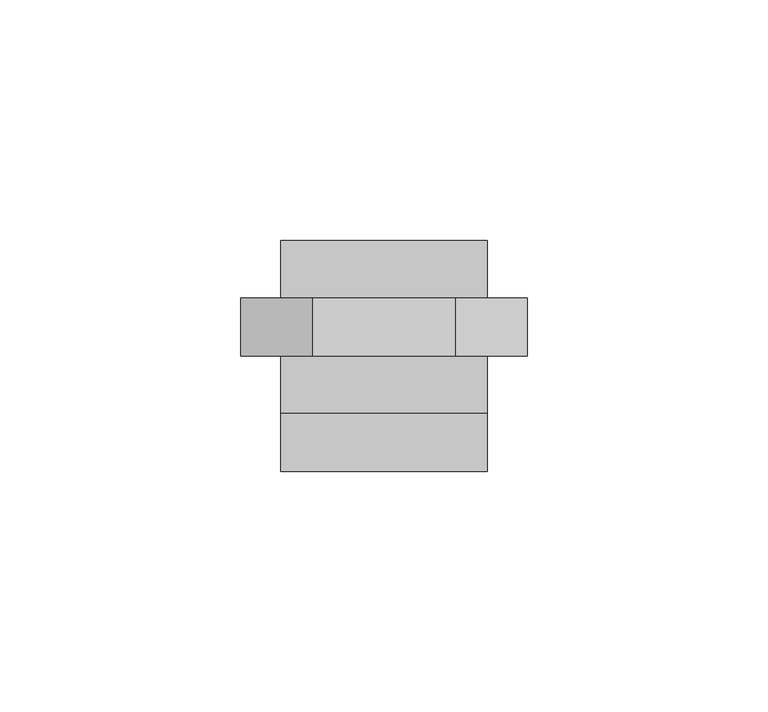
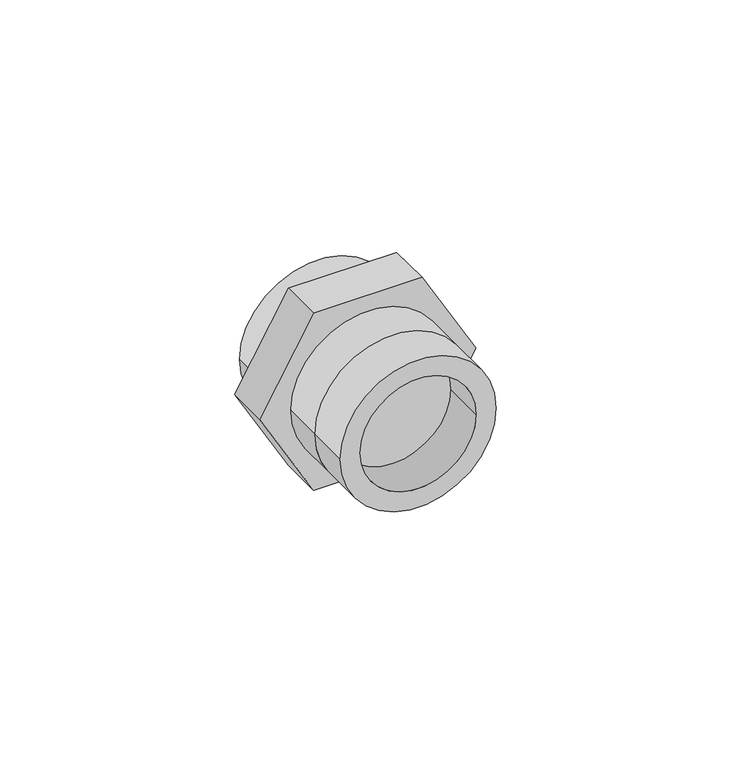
"""IFC4 building model written with IfcOpenShell, lengths in millimetres: pipe fitting geometry, EGB_VASEN_ PPR_Enlace desmontable soldar soldar WXR109 : Enlace desmontable soldar-soldar WXR109."""

import ifcopenshell
import ifcopenshell.guid

model = None  # the IFC model being written
_history = None  # IfcOwnerHistory: only IFC2X3 demands one
_inside = {}  # id of a spatial element -> (the spatial element, [elements in it])
_under = {}  # id of a project, library or spatial element -> (it, [spatial elements below it])
_declared = {}  # id of a project -> (the project, [libraries it declares])
_typed = {}  # id of a type object -> (the type object, [elements of that type])
_made_of = {}  # id of a material, layer set ... -> (it, [elements and type objects made of it])


def new_model(schema):
    """Start an empty IFC model of exactly this schema.

    Asked for "IFC4X3", IfcOpenShell would pick the latest addendum, in which some entities
    have other attributes; the version numbers below select the first issue.
    IFC2X3 requires an IfcOwnerHistory on every rooted entity: one is made here for all.
    """
    global model, _history
    if schema == "IFC4X3":
        model = ifcopenshell.file(schema_version=(4, 3, 0, 0))
    else:
        model = ifcopenshell.file(schema=schema)
    _inside.clear()
    _under.clear()
    _declared.clear()
    _typed.clear()
    _made_of.clear()
    _history = None
    if model.schema == "IFC2X3":
        org = make("IfcOrganization", Name="unknown")
        user = make(
            "IfcPersonAndOrganization",
            ThePerson=make("IfcPerson", FamilyName="unknown"),
            TheOrganization=org,
        )
        app = make(
            "IfcApplication",
            ApplicationDeveloper=org,
            Version="unknown",
            ApplicationFullName="unknown",
            ApplicationIdentifier="unknown",
        )
        _history = make(
            "IfcOwnerHistory",
            OwningUser=user,
            OwningApplication=app,
            ChangeAction="ADDED",
            CreationDate=0,
        )
    return model


def make(cls, **values):
    """One entity of the class cls with the attributes given. An attribute that is None is left unset."""
    return model.create_entity(
        cls, **{name: value for name, value in values.items() if value is not None}
    )


def rooted(cls, **values):
    """An entity with a GlobalId (a new one), such as an element, a storey or a relation."""
    return make(cls, GlobalId=ifcopenshell.guid.new(), OwnerHistory=_history, **values)


def si_unit(unit_type, name, prefix=None):
    """IfcSIUnit, for example si_unit("LENGTHUNIT", "METRE", prefix="MILLI")."""
    return make("IfcSIUnit", UnitType=unit_type, Prefix=prefix, Name=name)


def assignment(units):
    """IfcUnitAssignment: the units of a project."""
    return None if units is None else make("IfcUnitAssignment", Units=units)


def point(xyz):
    """IfcCartesianPoint."""
    return None if xyz is None else make("IfcCartesianPoint", Coordinates=xyz)


def direction(xyz):
    """IfcDirection."""
    return None if xyz is None else make("IfcDirection", DirectionRatios=xyz)


def frame(location, z_axis=None, x_axis=None):
    """IfcAxis2Placement3D, a coordinate frame: its origin and axes. An axis left out is left unset."""
    return make(
        "IfcAxis2Placement3D",
        Location=point(location),
        Axis=direction(z_axis),
        RefDirection=direction(x_axis),
    )


def frame_2d(location, x_axis=None):
    """IfcAxis2Placement2D, a coordinate frame in the plane: its origin and x axis."""
    return make(
        "IfcAxis2Placement2D", Location=point(location), RefDirection=direction(x_axis)
    )


def origin():
    """The frame at (0, 0, 0) with its axes left unset."""
    return frame((0.0, 0.0, 0.0))


def origin_2d():
    """The frame at (0, 0) in the plane with its x axis left unset."""
    return frame_2d((0.0, 0.0))


def place(relative_to, where):
    """IfcLocalPlacement: puts the frame where relative to a parent placement (None: the world)."""
    return make(
        "IfcLocalPlacement", PlacementRelTo=relative_to, RelativePlacement=where
    )


def context(
    kind, dimensions, precision=None, world=None, true_north=None, identifier=None
):
    """IfcGeometricRepresentationContext, for example the 3D "Model" context."""
    return make(
        "IfcGeometricRepresentationContext",
        ContextIdentifier=identifier,
        ContextType=kind,
        CoordinateSpaceDimension=dimensions,
        Precision=precision,
        WorldCoordinateSystem=world,
        TrueNorth=true_north,
    )


def project(units=None, contexts=None):
    """IfcProject with its units and contexts."""
    return rooted(
        "IfcProject",
        Name="project",
        RepresentationContexts=contexts,
        UnitsInContext=assignment(units),
    )


def spatial(cls, under=None, at=None, **own):
    """A site, building, storey or space (cls), placed at a placement, below another one or the project."""
    s = rooted(cls, ObjectPlacement=at, **own)
    if under is not None:
        _under.setdefault(under.id(), (under, []))[1].append(s)
    return s


def polyline(points):
    """IfcPolyline through the points."""
    return make("IfcPolyline", Points=[point(p) for p in points])


def circle_curve(where, radius):
    """IfcCircle in the frame where."""
    return make("IfcCircle", Position=where, Radius=radius)


def trimmed(basis, trim1, trim2, sense, master):
    """IfcTrimmedCurve: the piece of a basis curve between two trims."""
    return make(
        "IfcTrimmedCurve",
        BasisCurve=basis,
        Trim1=trim1,
        Trim2=trim2,
        SenseAgreement=sense,
        MasterRepresentation=master,
    )


def segment(curve, same_sense, transition):
    """IfcCompositeCurveSegment."""
    return make(
        "IfcCompositeCurveSegment",
        Transition=transition,
        SameSense=same_sense,
        ParentCurve=curve,
    )


def composite_curve(segments, self_intersect=None):
    """IfcCompositeCurve: segments joined end to end."""
    return make("IfcCompositeCurve", Segments=segments, SelfIntersect=self_intersect)


def outline(outer, holes=None, kind="AREA"):
    """IfcArbitraryClosedProfileDef: a profile drawn as a closed curve; with holes, ...WithVoids."""
    if holes is None:
        return make("IfcArbitraryClosedProfileDef", ProfileType=kind, OuterCurve=outer)
    return make(
        "IfcArbitraryProfileDefWithVoids",
        ProfileType=kind,
        OuterCurve=outer,
        InnerCurves=holes,
    )


def extrude(swept, where, along, depth):
    """IfcExtrudedAreaSolid: the profile swept, set in the frame where, extruded along a direction by depth."""
    return make(
        "IfcExtrudedAreaSolid",
        SweptArea=swept,
        Position=where,
        ExtrudedDirection=direction(along),
        Depth=depth,
    )


def shape(context_of_items, identifier, shape_type, items):
    """IfcShapeRepresentation: the items that make up one representation, for example the "Body"."""
    return make(
        "IfcShapeRepresentation",
        ContextOfItems=context_of_items,
        RepresentationIdentifier=identifier,
        RepresentationType=shape_type,
        Items=items,
    )


def source(mapping_origin, context_of_items, identifier, shape_type, items):
    """IfcRepresentationMap: a shape defined once, which mapped items show again and again."""
    return make(
        "IfcRepresentationMap",
        MappingOrigin=mapping_origin,
        MappedRepresentation=shape(context_of_items, identifier, shape_type, items),
    )


def transform(
    local_origin,
    x_axis=None,
    y_axis=None,
    z_axis=None,
    scale=None,
    scale2=None,
    scale3=None,
    uniform=True,
):
    """IfcCartesianTransformationOperator3D, or its non-uniform kind. x_axis, y_axis, z_axis: its Axis1, 2, 3."""
    if uniform:
        return make(
            "IfcCartesianTransformationOperator3D",
            Axis1=direction(x_axis),
            Axis2=direction(y_axis),
            LocalOrigin=point(local_origin),
            Scale=scale,
            Axis3=direction(z_axis),
        )
    return make(
        "IfcCartesianTransformationOperator3DnonUniform",
        Axis1=direction(x_axis),
        Axis2=direction(y_axis),
        LocalOrigin=point(local_origin),
        Scale=scale,
        Axis3=direction(z_axis),
        Scale2=scale2,
        Scale3=scale3,
    )


def mapped(mapping_source, mapping_target):
    """IfcMappedItem: shows the shape of a source again, moved by a transform."""
    return make(
        "IfcMappedItem", MappingSource=mapping_source, MappingTarget=mapping_target
    )


def made_of(thing, what):
    """Note that an element or type object is made of a material, layer set ...; save() writes the relation."""
    if what is not None:
        _made_of.setdefault(what.id(), (what, []))[1].append(thing)
    return thing


def element(
    cls,
    number,
    at=None,
    inside=None,
    cuts=None,
    type_object=None,
    material=None,
    context=None,
    identifier="Body",
    shape_type=None,
    held_by="IfcProductDefinitionShape",
    body=None,
    shapes=None,
    **own,
):
    """One element of the class cls, such as IfcWall. Its Tag is "e" and its number.

    at: its placement. inside: the storey or other place that contains it. cuts: it is an
    opening in that element (IfcRelVoidsElement). A single representation is given by context,
    identifier, shape_type and body (its items); several are given by shapes. held_by: the class
    of the entity that holds the representations. save() writes the other relations.
    """
    e = rooted(cls, Tag="e%d" % number, ObjectPlacement=at, **own)
    if body is not None:
        shapes = [shape(context, identifier, shape_type, body)]
    if shapes is not None:
        e.Representation = make(held_by, Representations=shapes)
    if inside is not None:
        _inside.setdefault(inside.id(), (inside, []))[1].append(e)
    if cuts is not None:
        rooted(
            "IfcRelVoidsElement", RelatingBuildingElement=cuts, RelatedOpeningElement=e
        )
    if type_object is not None:
        _typed.setdefault(type_object.id(), (type_object, []))[1].append(e)
    return made_of(e, material)


def aggregate(whole, parts):
    """IfcRelAggregates: a whole, such as a stair, and the parts it consists of."""
    return rooted("IfcRelAggregates", RelatingObject=whole, RelatedObjects=parts)


def save(model, path):
    """Write the relations noted so far, then the file.

    IfcRelAggregates (storeys below a building ...), IfcRelContainedInSpatialStructure (elements
    in a storey), IfcRelDefinesByType, IfcRelAssociatesMaterial and IfcRelDeclares: one each for
    every whole, place, type object, material and project.
    """
    for whole, parts in _under.values():
        aggregate(whole, parts)
    for where, things in _inside.values():
        rooted(
            "IfcRelContainedInSpatialStructure",
            RelatedElements=things,
            RelatingStructure=where,
        )
    for kind, things in _typed.values():
        rooted("IfcRelDefinesByType", RelatedObjects=things, RelatingType=kind)
    for what, things in _made_of.values():
        rooted("IfcRelAssociatesMaterial", RelatedObjects=things, RelatingMaterial=what)
    for by, libraries in _declared.values():
        rooted("IfcRelDeclares", RelatingContext=by, RelatedDefinitions=libraries)
    model.write(path)


def pipe_fitting_d8ea8c3c(model_context):
    return source(origin(), model_context, "Body", "SweptSolid", [
        extrude(outline(polyline([(0.0, 29.7912739), (25.8, 14.8956369), (25.8, -14.8956369), (0.0, -29.7912739), (-25.8, -14.8956369), (-25.8, 14.8956369), (0.0, 29.7912739)])), frame((0.0, 0.14375, 0.0), z_axis=(0.0, 1.0, 0.0), x_axis=(0.0, 0.0, 1.0)), (0.0, 0.0, 1.0), 12.0),
        extrude(outline(composite_curve([segment(trimmed(circle_curve(origin_2d(), 21.5), [point((0.0, -21.5))], [point((0.0, 21.5))], False, "CARTESIAN"), True, "CONTINUOUS"), segment(trimmed(circle_curve(origin_2d(), 21.5), [point((0.0, 21.5))], [point((0.0, -21.5))], False, "CARTESIAN"), True, "CONTINUOUS")], self_intersect=False), holes=[composite_curve([segment(trimmed(circle_curve(origin_2d(), 16.0), [point((0.0, -16.0))], [point((0.0, 16.0))], True, "CARTESIAN"), True, "CONTINUOUS"), segment(trimmed(circle_curve(origin_2d(), 16.0), [point((0.0, 16.0))], [point((0.0, -16.0))], True, "CARTESIAN"), True, "CONTINUOUS")], self_intersect=False)]), frame((0.0, -23.85625, 0.0), z_axis=(0.0, 1.0, 0.0), x_axis=(0.0, 0.0, 1.0)), (0.0, 0.0, 1.0), 12.0),
        extrude(outline(composite_curve([segment(trimmed(circle_curve(origin_2d(), 21.5), [point((0.0, -21.5))], [point((0.0, 21.5))], False, "CARTESIAN"), True, "CONTINUOUS"), segment(trimmed(circle_curve(origin_2d(), 21.5), [point((0.0, 21.5))], [point((0.0, -21.5))], False, "CARTESIAN"), True, "CONTINUOUS")], self_intersect=False), holes=[composite_curve([segment(trimmed(circle_curve(origin_2d(), 16.0), [point((0.0, -16.0))], [point((0.0, 16.0))], True, "CARTESIAN"), True, "CONTINUOUS"), segment(trimmed(circle_curve(origin_2d(), 16.0), [point((0.0, 16.0))], [point((0.0, -16.0))], True, "CARTESIAN"), True, "CONTINUOUS")], self_intersect=False)]), frame((0.0, 12.14375, 0.0), z_axis=(0.0, 1.0, 0.0), x_axis=(0.0, 0.0, 1.0)), (0.0, 0.0, 1.0), 12.0),
        extrude(outline(composite_curve([segment(trimmed(circle_curve(origin_2d(), 21.5), [point((0.0, -21.5))], [point((0.0, 21.5))], False, "CARTESIAN"), True, "CONTINUOUS"), segment(trimmed(circle_curve(origin_2d(), 21.5), [point((0.0, 21.5))], [point((0.0, -21.5))], False, "CARTESIAN"), True, "CONTINUOUS")], self_intersect=False)), frame((0.0, -11.85625, 0.0), z_axis=(0.0, 1.0, 0.0), x_axis=(0.0, 0.0, 1.0)), (0.0, 0.0, 1.0), 12.0),
    ])


if __name__ == "__main__":
    model = new_model("IFC4")
    model_context = context("Model", 3, world=origin())
    ifc_project = project(units=[si_unit("LENGTHUNIT", "METRE", prefix="MILLI")], contexts=[model_context])
    site = spatial("IfcSite", under=ifc_project)
    building = spatial("IfcBuilding", under=site)
    placement = place(None, origin())
    pipe_fitting_shape = pipe_fitting_d8ea8c3c(model_context)
    element("IfcPipeFitting", 1, ObjectType="EGB_VASEN_ PPR_Enlace desmontable soldar soldar WXR109 : Enlace desmontable soldar-soldar WXR109", at=placement, inside=building, context=model_context, shape_type="MappedRepresentation", body=[
        mapped(pipe_fitting_shape, transform((0.0, 0.0, 0.0), x_axis=(1.0, 0.0, 0.0), y_axis=(0.0, 1.0, 0.0), z_axis=(0.0, 0.0, 1.0))),
    ])
    save(model, "model.ifc")
